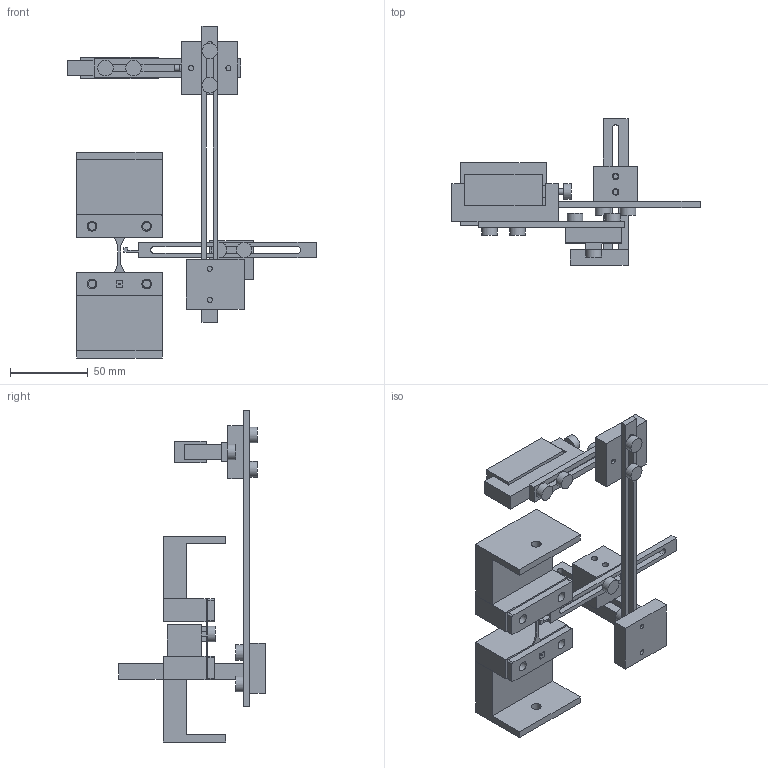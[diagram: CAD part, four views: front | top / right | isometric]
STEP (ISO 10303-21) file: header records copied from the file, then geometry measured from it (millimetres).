
FILE_DESCRIPTION(('Open CASCADE Model'),'2;1');
FILE_NAME('Open CASCADE Shape Model','2026-11-08T07:33:10',('Author'),( 'Open CASCADE'),'Open CASCADE STEP processor 7.8','Open CASCADE 7.8' ,'Unknown');
FILE_SCHEMA(('AUTOMOTIVE_DESIGN { 1 0 10303 214 1 1 1 1 }'));
Length unit declared in the file: millimetre
Products named in the file (30): R_installation_ASSUMED_REFERENCE; 01_side_clamp_S50; 02_protective_pad; 03_horizontal_bar; 04_corner; 05_vertical_rail_190; 06_ribbed_depth_carriage; 07_cross_slide_carriage; 08_sliding_target_flag; M4x12_A_01; M4x12_A_02; M4x12_B_03; M4x12_B_04; M4x12_C_05; M4x12_C_06; M4x12_D_07; M4x12_D_08; M4x12_E_09; M4x12_E_10; M4x12_F_11; M4x12_F_12; M4x12_P_13; local_S50_patch_REFERENCE; lower_mount; upper_mount; lower_cover; upper_cover; nominal_sample; fixed_label; fixed_dot
Assembly tree (29 placements, depth 2):
  R_installation_ASSUMED_REFERENCE
    01_side_clamp_S50
    02_protective_pad
    03_horizontal_bar
    04_corner
    05_vertical_rail_190
    06_ribbed_depth_carriage
    07_cross_slide_carriage
    08_sliding_target_flag
    M4x12_A_01
    M4x12_A_02
    M4x12_B_03
    M4x12_B_04
    M4x12_C_05
    M4x12_C_06
    M4x12_D_07
    M4x12_D_08
    M4x12_E_09
    M4x12_E_10
    M4x12_F_11
    M4x12_F_12
    M4x12_P_13
    local_S50_patch_REFERENCE
    lower_mount
    upper_mount
    lower_cover
    upper_cover
    nominal_sample
    fixed_label
    fixed_dot
Bounding box: 159.2 x 94 x 213 mm (x, y, z)
Volume: 213867.2 mm3; surface area: 82081 mm2
Topology: 31 solids, 31 shells, 263 faces, 543 edges, 362 vertices
Faces by surface type: plane 192, cylinder 71
Full cylindrical faces by diameter (mm): 1 x1, 3.242 x13, 4 x13, 4.2 x5, 5 x4, 6.3 x6, 10 x13
Entity records: 14915 total; most frequent: CARTESIAN_POINT 2482, DIRECTION 2324, LINE 1345, VECTOR 1345, ORIENTED_EDGE 1086, PCURVE 1086, DEFINITIONAL_REPRESENTATION 1086, EDGE_CURVE 543
